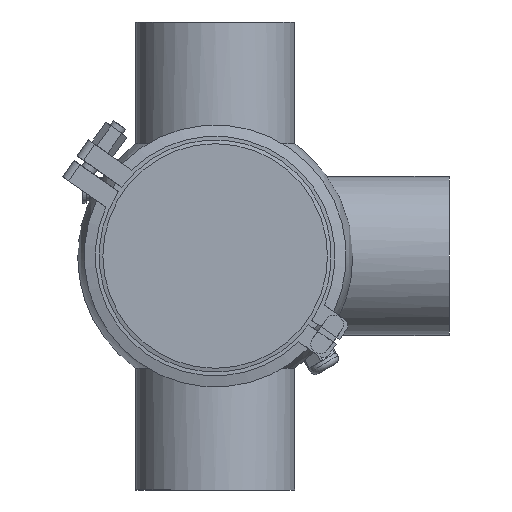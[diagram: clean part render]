
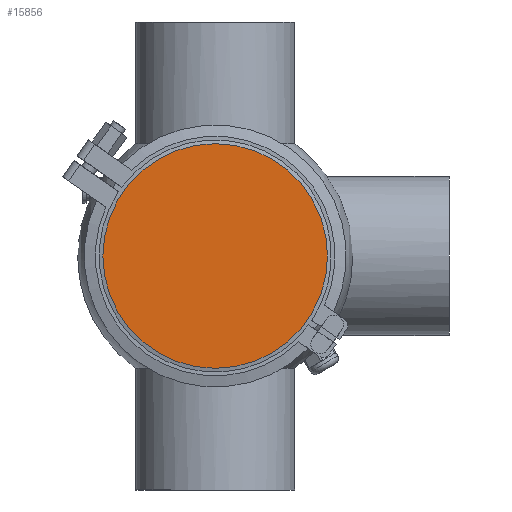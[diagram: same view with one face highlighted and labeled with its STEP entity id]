
A CAD part, front view. The second image highlights one B-rep face of the part: STEP entity #15856.
In plain terms, the highlighted planar face has unit normal (0, -1, 0).
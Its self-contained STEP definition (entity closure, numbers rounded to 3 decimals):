
#4717 = DIRECTION ( 'NONE',  ( 0., -1., 0. ) ) ;
#5190 = VERTEX_POINT ( 'NONE', #52118 ) ;
#5599 = DIRECTION ( 'NONE',  ( 0., 0., 1. ) ) ;
#10226 = PLANE ( 'NONE',  #30954 ) ;
#11463 = EDGE_LOOP ( 'NONE', ( #42428 ) ) ;
#15524 = FACE_OUTER_BOUND ( 'NONE', #11463, .T. ) ;
#15856 = ADVANCED_FACE ( 'NONE', ( #15524 ), #10226, .T. ) ;
#29175 = CARTESIAN_POINT ( 'NONE',  ( -60., 0., 0. ) ) ;
#30954 = AXIS2_PLACEMENT_3D ( 'NONE', #29175, #4717, #34473 ) ;
#34473 = DIRECTION ( 'NONE',  ( 0., 0., -1. ) ) ;
#35748 = AXIS2_PLACEMENT_3D ( 'NONE', #46926, #48142, #5599 ) ;
#42428 = ORIENTED_EDGE ( 'NONE', *, *, #45592, .F. ) ;
#45592 = EDGE_CURVE ( 'NONE', #5190, #5190, #46676, .T. ) ;
#46676 = CIRCLE ( 'NONE', #35748, 60. ) ;
#46926 = CARTESIAN_POINT ( 'NONE',  ( 0., 0., 0. ) ) ;
#48142 = DIRECTION ( 'NONE',  ( 0., 1., 0. ) ) ;
#52118 = CARTESIAN_POINT ( 'NONE',  ( 0., 0., 60. ) ) ;
